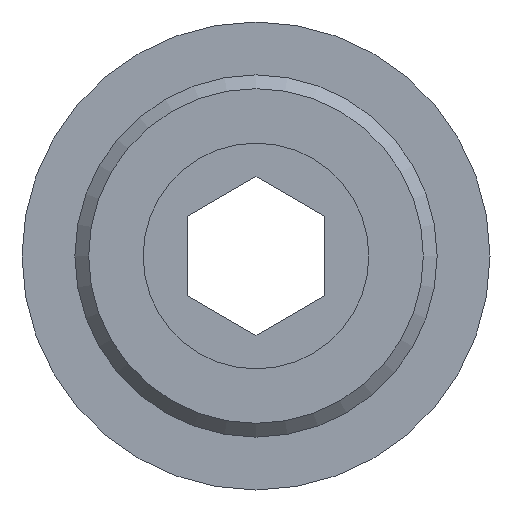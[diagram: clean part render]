
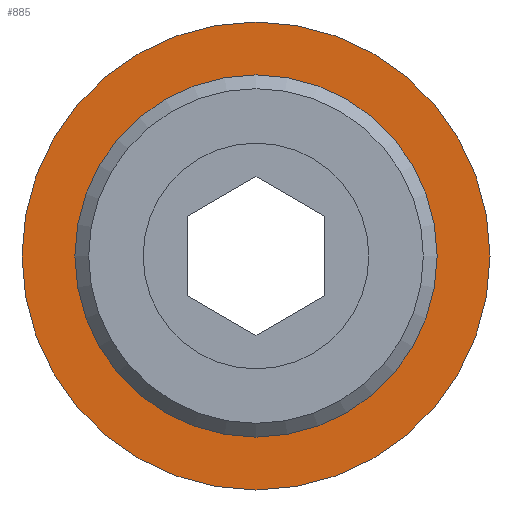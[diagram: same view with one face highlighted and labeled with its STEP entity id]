
A CAD part, front view. The second image highlights one B-rep face of the part: STEP entity #885.
In plain terms, the highlighted planar face has unit normal (0, -1, 0).
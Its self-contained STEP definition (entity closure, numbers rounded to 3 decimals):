
#377=CARTESIAN_POINT('',(6.579,-16.5,0.0));
#378=VERTEX_POINT('',#377);
#379=CARTESIAN_POINT('',(0.0,-16.5,0.0));
#380=DIRECTION('',(0.0,-1.0,0.0));
#381=DIRECTION('',(1.0,0.0,0.0));
#382=AXIS2_PLACEMENT_3D('',#379,#380,#381);
#383=CIRCLE('',#382,6.579);
#384=EDGE_CURVE('',#378,#378,#383,.T.);
#859=CARTESIAN_POINT('',(8.5,-16.5,0.0));
#860=VERTEX_POINT('',#859);
#861=CARTESIAN_POINT('',(0.0,-16.5,0.0));
#862=DIRECTION('',(0.0,-1.0,0.0));
#863=DIRECTION('',(1.0,0.0,0.0));
#864=AXIS2_PLACEMENT_3D('',#861,#862,#863);
#865=CIRCLE('',#864,8.5);
#866=EDGE_CURVE('',#860,#860,#865,.T.);
#874=CARTESIAN_POINT('',(7.539,-16.5,0.0));
#875=DIRECTION('',(0.0,-1.0,0.0));
#876=DIRECTION('',(0.0,0.0,-1.0));
#877=AXIS2_PLACEMENT_3D('',#874,#875,#876);
#878=PLANE('',#877);
#879=ORIENTED_EDGE('',*,*,#866,.T.);
#880=EDGE_LOOP('',(#879));
#881=FACE_OUTER_BOUND('',#880,.T.);
#882=ORIENTED_EDGE('',*,*,#384,.F.);
#883=EDGE_LOOP('',(#882));
#884=FACE_BOUND('',#883,.T.);
#885=ADVANCED_FACE('',(#881,#884),#878,.T.);
